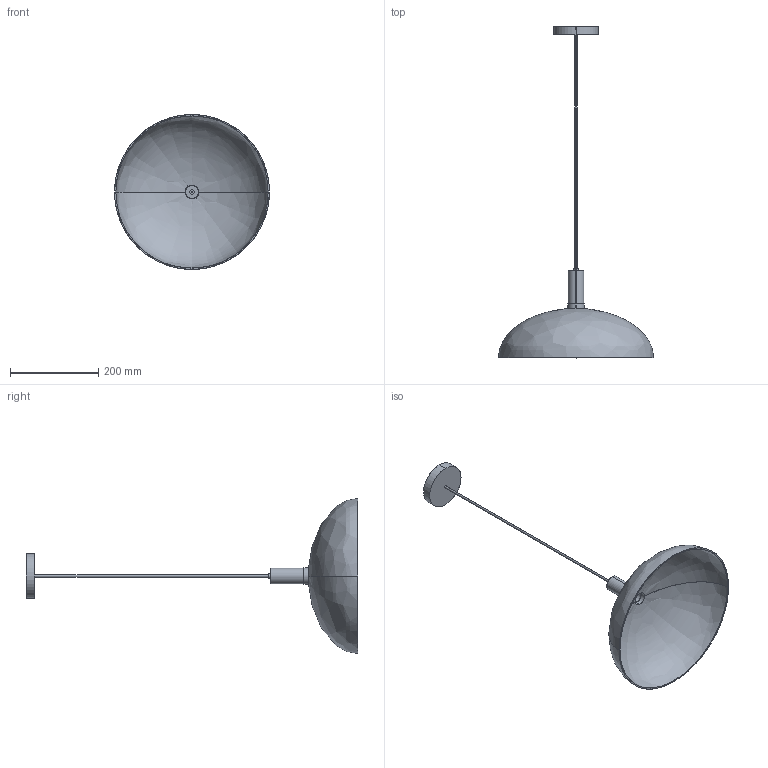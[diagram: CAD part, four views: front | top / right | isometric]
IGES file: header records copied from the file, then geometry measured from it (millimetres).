
Start section: SolidWorks IGES file using analytic representation for surfaces
Global section: file name: D:\3DS EMPRESA\TIGA-C3707-3D\TIGA-C3707-3D.IGS; native system: SolidWorks 2019; preprocessor: SolidWorks 2019; author: Carlos Corella; date: 210722.111759; units: millimetre
Bounding box: 350 x 750 x 350 mm (x, y, z)
Surface area: 359150.5 mm2 (no closed solid volume)
Topology: 0 solids, 0 shells, 33 faces, 1056 edges, 1056 vertices
Faces by surface type: revolution 18, bspline 15
